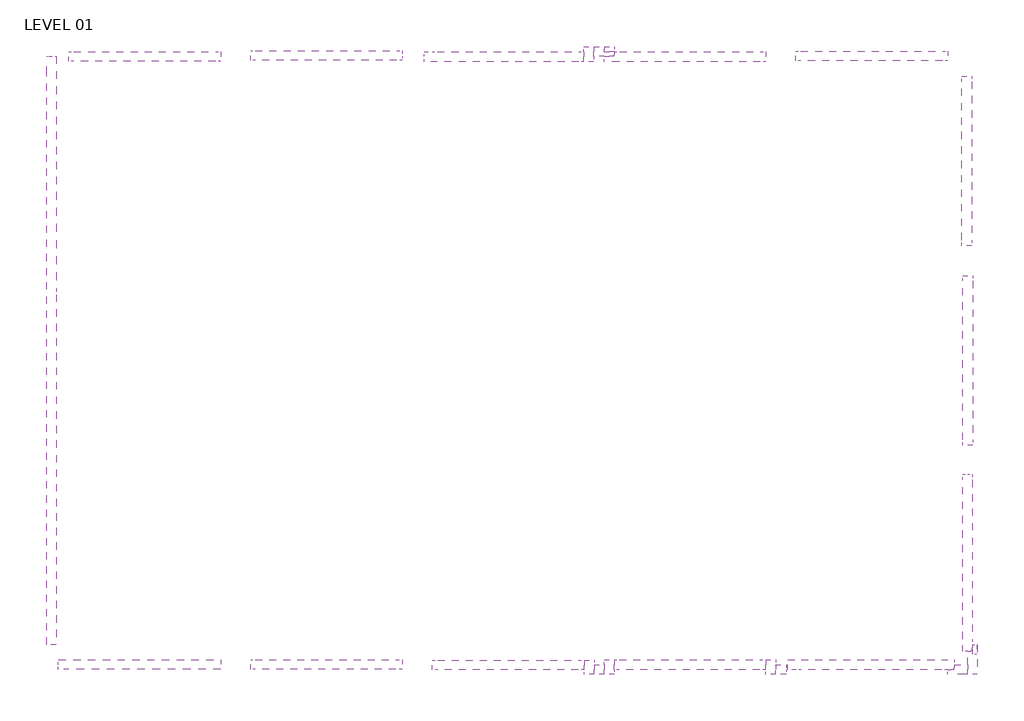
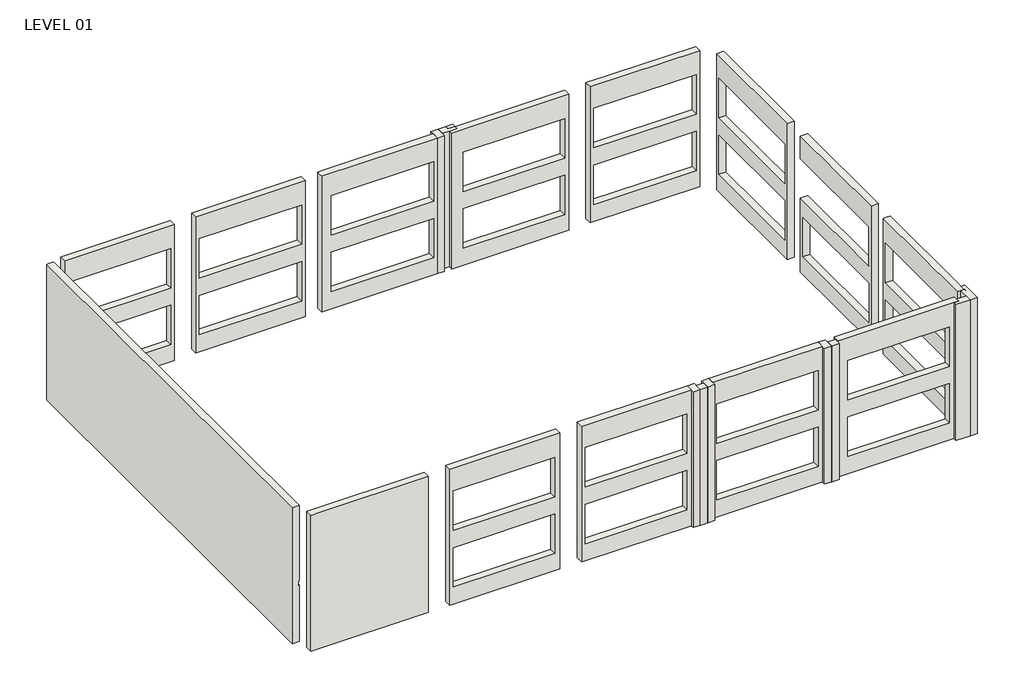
# One storey: 25 walls.
"""IFC4 building model written with IfcOpenShell, lengths in millimetres."""

from ifc_helpers import new_model, si_unit, frame, origin, place, context, project, spatial, polyline, outline, extrude, faceted_brep, element, save

model = new_model("IFC4")

# Units and contexts
model_context = context("Model", 3, world=origin())
ifc_project = project(units=[si_unit("LENGTHUNIT", "METRE", prefix="MILLI")], contexts=[model_context])

# Site, building, storey
site = spatial("IfcSite", under=ifc_project)
building = spatial("IfcBuilding", under=site)
storey = spatial("IfcBuildingStorey", under=building, Name="LEVEL 01", Elevation=0.0)

# Walls
placement = place(None, origin())
element("IfcWall", 1, ObjectType="Generic Exterior - Brick Three Wythe", at=placement, inside=storey, context=model_context, shape_type="Brep", body=[
    faceted_brep([(-37791.6332298, -450.85, 17221.2), (-37791.6332298, -24274.408955, 17221.2), (-37791.6332298, -24274.408955, 25273.0), (-37791.6332298, -1260.4335375, 25273.0), (-37791.6332298, -450.85, 25273.0), (-37791.6332298, -450.85, 17449.8), (-37391.5832298, -24274.408955, 17221.2), (-37391.5832298, -450.85, 17221.2), (-37391.5832298, -450.85, 17449.8), (-37391.5832298, -450.85, 20574.0), (-37391.5832298, -5926.2249162, 20574.0), (-37391.5832298, -9846.4419757, 20574.0), (-37391.5832298, -10100.4419757, 20574.0), (-37391.5832298, -24274.408955, 20574.0), (-37391.5832298, -24274.408955, 17449.8), (-37391.5832298, -450.85, 25273.0), (-37391.5832298, -24274.408955, 25273.0), (-37391.5832298, -24274.408955, 20802.6), (-37391.5832298, -10100.4419757, 20802.6), (-37391.5832298, -9846.4419757, 20802.6), (-37391.5832298, -5926.2249162, 20802.6), (-37391.5832298, -450.85, 20802.6), (-37391.5832298, -450.85, 24155.4), (-37695.5174995, -450.85, 25273.0), (-37440.7849596, -24274.408955, 20574.0), (-37440.7849596, -24274.408955, 20802.6), (-37440.7849596, -450.85, 20574.0), (-37440.7849596, -450.85, 20802.6)], [[[0, 1, 2, 3, 4, 5]], [[6, 7, 8, 9, 10, 11, 12, 13, 14]], [[15, 16, 17, 18, 19, 20, 21, 22]], [[1, 0, 7, 6]], [[4, 3, 2, 16, 15, 23]], [[2, 1, 6, 14, 13, 24, 25, 17, 16]], [[26, 24, 13, 12, 11, 10, 9]], [[25, 27, 21, 20, 19, 18, 17]], [[24, 26, 27, 25]], [[0, 5, 4, 23, 15, 22, 21, 27, 26, 9, 8, 7]]]),
])
element("IfcWall", 2, ObjectType="Generic Exterior - Brick Three Wythe", at=placement, inside=storey, context=model_context, shape_type="Brep", body=[
    faceted_brep([(-30727.2582298, -24880.833955, 17221.2), (-37309.0332298, -24880.833955, 17221.2), (-37309.0332298, -24880.833955, 17449.8), (-37309.0332298, -24880.833955, 24155.4), (-37309.0332298, -24880.833955, 25273.0), (-30727.2582298, -24880.833955, 25273.0), (-30727.2582298, -24880.833955, 17449.8), (-30727.2582298, -25280.883955, 17221.2), (-30727.2582298, -25280.883955, 25273.0), (-36889.9332298, -25280.883955, 25273.0), (-37289.9832298, -25280.883955, 25273.0), (-37309.0332298, -25280.883955, 25273.0), (-37309.0332298, -25280.883955, 17449.8), (-37309.0332298, -25280.883955, 17221.2), (-37309.0332298, -25084.033955, 25273.0)], [[[0, 1, 2, 3, 4, 5, 6]], [[7, 8, 9, 10, 11, 12, 13]], [[1, 0, 7, 13]], [[4, 3, 2, 1, 13, 12, 11, 14]], [[5, 4, 14, 11, 10, 9, 8]], [[0, 6, 5, 8, 7]]]),
])
element("IfcWall", 3, ObjectType="Generic Exterior - Brick Three Wythe", at=placement, inside=storey, context=model_context, shape_type="Brep", body=[
    faceted_brep([(-480.6099596, -25483.6398215, 17221.2), (-480.6099596, -25483.6398215, 25273.0), (-480.6099596, -25083.5898215, 25273.0), (-480.6099596, -24550.3435128, 25273.0), (-480.6099596, -24550.3435128, 24155.4), (-480.6099596, -24550.3435128, 17449.8), (-480.6099596, -24550.3435128, 17221.2), (-480.6099596, -25083.5898215, 17221.2), (-80.5599596, -25483.6398215, 17221.2), (-80.5599596, -24274.4089512, 17221.2), (-80.5599596, -24274.4089512, 25273.0), (-80.5599596, -25483.6398215, 25273.0), (-283.7599596, -24550.3435128, 17221.2), (-283.7599596, -24274.4089512, 17221.2), (-283.7599596, -24274.4089512, 25273.0), (-283.7599596, -24550.3435128, 25273.0)], [[[0, 1, 2, 3, 4, 5, 6, 7]], [[8, 9, 10, 11]], [[9, 8, 0, 7, 6, 12, 13]], [[11, 10, 14, 15, 3, 2, 1]], [[10, 9, 13, 14]], [[1, 0, 8, 11]], [[12, 15, 14, 13]], [[15, 12, 6, 5, 4, 3]]]),
])
element("IfcWall", 4, ObjectType="Generic Exterior - Brick Three Wythe", at=placement, inside=storey, context=model_context, shape_type="Brep", body=[
    faceted_brep([(-480.6099596, -25083.5898215, 25273.0), (-480.6099596, -25083.5898215, 24155.4), (-480.6099596, -25083.5898215, 17449.8), (-480.6099596, -25083.5898215, 17221.2), (-1026.7099596, -25083.5898215, 17221.2), (-1026.7099596, -25083.5898215, 17449.8), (-1026.7099596, -25083.5898215, 24155.4), (-1026.7099596, -25083.5898215, 25273.0), (-1283.8849596, -25483.6398215, 17221.2), (-480.6099596, -25483.6398215, 17221.2), (-480.6099596, -25483.6398215, 25273.0), (-1283.8849596, -25483.6398215, 25273.0), (-1283.8849596, -25286.7898215, 17221.2), (-1026.7099596, -25286.7898215, 17221.2), (-1283.8849596, -25286.7898215, 25273.0), (-1026.7099596, -25286.7898215, 25273.0)], [[[0, 1, 2, 3, 4, 5, 6, 7]], [[8, 9, 10, 11]], [[9, 8, 12, 13, 4, 3]], [[8, 11, 14, 12]], [[11, 10, 0, 7, 15, 14]], [[3, 2, 1, 0, 10, 9]], [[15, 13, 12, 14]], [[13, 15, 7, 6, 5, 4]]]),
])
element("IfcWall", 5, ObjectType="Generic Exterior - Brick Three Wythe", at=placement, inside=storey, context=model_context, shape_type="Brep", body=[
    faceted_brep([(-1026.7099596, -24886.7398215, 17221.2), (-7757.7099596, -24886.7398215, 17221.2), (-7757.7099596, -24886.7398215, 17449.8), (-7757.7099596, -24886.7398215, 24155.4), (-7757.7099596, -24886.7398215, 25273.0), (-1026.7099596, -24886.7398215, 25273.0), (-1026.7099596, -24886.7398215, 24155.4), (-1026.7099596, -24886.7398215, 17449.8), (-7224.9471136, -24886.7398215, 23926.8), (-7224.9471136, -24886.7398215, 21590.0), (-1535.3471136, -24886.7398215, 21590.0), (-1535.3471136, -24886.7398215, 23926.8), (-7224.9471136, -24886.7398215, 20574.0), (-7224.9471136, -24886.7398215, 18237.2), (-1535.3471136, -24886.7398215, 18237.2), (-1535.3471136, -24886.7398215, 20574.0), (-7757.7099596, -25286.7898215, 17221.2), (-1283.8849596, -25286.7898215, 17221.2), (-1026.7099596, -25286.7898215, 17221.2), (-1026.7099596, -25286.7898215, 25273.0), (-1283.8849596, -25286.7898215, 25273.0), (-7430.6849596, -25286.7898215, 25273.0), (-7757.7099596, -25286.7898215, 25273.0), (-7224.9471136, -25286.7898215, 21590.0), (-7224.9471136, -25286.7898215, 23926.8), (-1535.3471136, -25286.7898215, 23926.8), (-1535.3471136, -25286.7898215, 21590.0), (-7224.9471136, -25286.7898215, 18237.2), (-7224.9471136, -25286.7898215, 20574.0), (-1535.3471136, -25286.7898215, 20574.0), (-1535.3471136, -25286.7898215, 18237.2), (-1026.7099596, -25083.5898215, 17221.2), (-1026.7099596, -25083.5898215, 25273.0)], [[[0, 1, 2, 3, 4, 5, 6, 7], [8, 9, 10, 11], [12, 13, 14, 15]], [[16, 17, 18, 19, 20, 21, 22], [23, 24, 25, 26], [27, 28, 29, 30]], [[1, 0, 31, 18, 17, 16]], [[4, 3, 2, 1, 16, 22]], [[5, 4, 22, 21, 20, 19, 32]], [[0, 7, 6, 5, 32, 19, 18, 31]], [[23, 9, 8, 24]], [[24, 8, 11, 25]], [[25, 11, 10, 26]], [[9, 23, 26, 10]], [[27, 13, 12, 28]], [[28, 12, 15, 29]], [[29, 15, 14, 30]], [[13, 27, 30, 14]]]),
])
element("IfcWall", 6, ObjectType="Generic Exterior - Brick Three Wythe", at=placement, inside=storey, context=model_context, shape_type="Brep", body=[
    faceted_brep([(-7830.7349596, -25084.033955, 17221.2), (-8252.0596136, -25084.033955, 17221.2), (-8252.0596136, -25084.033955, 17449.8), (-7830.7349596, -25084.033955, 17449.8), (-8252.0596136, -25084.033955, 25273.0), (-7830.7349596, -25084.033955, 25273.0), (-7830.7349596, -25084.033955, 24155.4), (-8252.0596136, -25084.033955, 24155.4), (-8252.0596136, -25484.083955, 17221.2), (-7830.7349596, -25484.083955, 17221.2), (-7830.7349596, -25484.083955, 17449.8), (-7830.7349596, -25484.083955, 25273.0), (-8252.0596136, -25484.083955, 25273.0), (-7830.7349596, -25286.7898215, 25273.0), (-7830.7349596, -25135.9101345, 17449.8), (-7830.7349596, -25135.9101345, 24155.4), (-8252.0596136, -25135.9101345, 24155.4), (-8252.0596136, -25135.9101345, 17449.8)], [[[0, 1, 2, 3]], [[4, 5, 6, 7]], [[8, 9, 10, 11, 12]], [[1, 0, 9, 8]], [[5, 4, 12, 11, 13]], [[5, 13, 11, 10, 9, 0, 3, 14, 15, 6]], [[15, 16, 7, 6]], [[16, 15, 14, 17]], [[1, 8, 12, 4, 7, 16, 17, 2]], [[17, 14, 3, 2]]]),
])
element("IfcWall", 7, ObjectType="Generic Exterior - Brick Three Wythe", at=placement, inside=storey, context=model_context, shape_type="Brep", body=[
    faceted_brep([(-8252.0596136, -25484.083955, 17221.2), (-8252.0596136, -25084.033955, 17221.2), (-8252.0596136, -24886.7398215, 17221.2), (-8252.0596136, -24886.7398215, 17449.8), (-8252.0596136, -24886.7398215, 24155.4), (-8252.0596136, -24886.7398215, 25273.0), (-8252.0596136, -25084.033955, 25273.0), (-8252.0596136, -25484.083955, 25273.0), (-8652.1096136, -25484.083955, 17221.2), (-8652.1096136, -25484.083955, 25273.0), (-8652.1096136, -25286.7898215, 25273.0), (-8652.1096136, -24886.7398215, 25273.0), (-8652.1096136, -24886.7398215, 17221.2), (-8652.1096136, -25286.7898215, 17221.2)], [[[0, 1, 2, 3, 4, 5, 6, 7]], [[8, 9, 10, 11, 12, 13]], [[2, 1, 0, 8, 13, 12]], [[7, 6, 5, 11, 10, 9]], [[0, 7, 9, 8]], [[5, 4, 3, 2, 12, 11]]]),
])
element("IfcWall", 8, ObjectType="Generic Exterior - Brick Three Wythe", at=placement, inside=storey, context=model_context, shape_type="SweptSolid", body=[
    extrude(outline(polyline([(17221.2, -14798.9096136), (17221.2, -8652.1096136), (25273.0, -8652.1096136), (25273.0, -14798.9096136), (17221.2, -14798.9096136)]), holes=[polyline([(21590.0, -14586.8217677), (23926.8, -14586.8217677), (23926.8, -8897.2217677), (21590.0, -8897.2217677), (21590.0, -14586.8217677)]), polyline([(18237.2, -14586.8217677), (20574.0, -14586.8217677), (20574.0, -8897.2217677), (18237.2, -8897.2217677), (18237.2, -14586.8217677)])]), frame((0.0, -25286.7898215, 0.0), z_axis=(0.0, 1.0, 0.0), x_axis=(0.0, 0.0, 1.0)), (0.0, 0.0, 1.0), 400.05),
])
element("IfcWall", 9, ObjectType="Generic Exterior - Brick Three Wythe", at=placement, inside=storey, context=model_context, shape_type="Brep", body=[
    faceted_brep([(-15198.9596136, -24886.7398215, 17221.2), (-15198.9596136, -25084.033955, 17221.2), (-15198.9596136, -25484.083955, 17221.2), (-15198.9596136, -25484.083955, 25273.0), (-15198.9596136, -25084.033955, 25273.0), (-15198.9596136, -24886.7398215, 25273.0), (-15198.9596136, -24886.7398215, 24155.4), (-15198.9596136, -24886.7398215, 17449.8), (-14798.9096136, -24886.7398215, 17221.2), (-14798.9096136, -24886.7398215, 25273.0), (-14798.9096136, -25286.7898215, 25273.0), (-14798.9096136, -25484.083955, 25273.0), (-14798.9096136, -25484.083955, 17221.2), (-14798.9096136, -25286.7898215, 17221.2)], [[[0, 1, 2, 3, 4, 5, 6, 7]], [[8, 9, 10, 11, 12, 13]], [[2, 1, 0, 8, 13, 12]], [[5, 4, 3, 11, 10, 9]], [[0, 7, 6, 5, 9, 8]], [[3, 2, 12, 11]]]),
])
element("IfcWall", 10, ObjectType="Generic Exterior - Brick Three Wythe", at=placement, inside=storey, context=model_context, shape_type="Brep", body=[
    faceted_brep([(-15198.9596136, -25084.033955, 17221.2), (-15613.9342677, -25084.033955, 17221.2), (-15613.9342677, -25084.033955, 17449.8), (-15613.9342677, -25084.033955, 24155.4), (-15613.9342677, -25084.033955, 25273.0), (-15198.9596136, -25084.033955, 25273.0), (-15198.9596136, -25084.033955, 24155.4), (-15198.9596136, -25084.033955, 17449.8), (-15198.9596136, -25484.083955, 17221.2), (-15198.9596136, -25484.083955, 25273.0), (-15613.9342677, -25484.083955, 25273.0), (-15613.9342677, -25484.083955, 17221.2)], [[[0, 1, 2, 3, 4, 5, 6, 7]], [[8, 9, 10, 11]], [[1, 0, 8, 11]], [[5, 4, 10, 9]], [[0, 7, 6, 5, 9, 8]], [[4, 3, 2, 1, 11, 10]]]),
])
element("IfcWall", 11, ObjectType="Generic Exterior - Brick Three Wythe", at=placement, inside=storey, context=model_context, shape_type="Brep", body=[
    faceted_brep([(-15613.9342677, -25484.083955, 17221.2), (-15613.9342677, -25084.033955, 17221.2), (-15613.9342677, -24903.058955, 17221.2), (-15613.9342677, -24903.058955, 17449.8), (-15613.9342677, -24903.058955, 24155.4), (-15613.9342677, -24903.058955, 25273.0), (-15613.9342677, -25084.033955, 25273.0), (-15613.9342677, -25484.083955, 25273.0), (-16013.9842677, -25484.083955, 17221.2), (-16013.9842677, -25484.083955, 25273.0), (-16013.9842677, -25303.108955, 25273.0), (-16013.9842677, -24903.058955, 25273.0), (-16013.9842677, -24903.058955, 17221.2), (-16013.9842677, -25303.108955, 17221.2)], [[[0, 1, 2, 3, 4, 5, 6, 7]], [[8, 9, 10, 11, 12, 13]], [[2, 1, 0, 8, 13, 12]], [[7, 6, 5, 11, 10, 9]], [[0, 7, 9, 8]], [[5, 4, 3, 2, 12, 11]]]),
])
element("IfcWall", 12, ObjectType="Generic Exterior - Brick Three Wythe", at=placement, inside=storey, context=model_context, shape_type="Brep", body=[
    faceted_brep([(-16013.9842677, -24903.058955, 17221.2), (-22160.7842677, -24903.058955, 17221.2), (-22160.7842677, -24903.058955, 17449.8), (-22160.7842677, -24903.058955, 25273.0), (-16013.9842677, -24903.058955, 25273.0), (-21946.1585758, -24903.058955, 23926.8), (-21946.1585758, -24903.058955, 21590.0), (-16256.5585758, -24903.058955, 21590.0), (-16256.5585758, -24903.058955, 23926.8), (-21946.1585758, -24903.058955, 20574.0), (-21946.1585758, -24903.058955, 18237.2), (-16256.5585758, -24903.058955, 18237.2), (-16256.5585758, -24903.058955, 20574.0), (-22160.7842677, -25303.108955, 17221.2), (-16013.9842677, -25303.108955, 17221.2), (-16013.9842677, -25303.108955, 25273.0), (-22160.7842677, -25303.108955, 25273.0), (-21946.1585758, -25303.108955, 21590.0), (-21946.1585758, -25303.108955, 23926.8), (-16256.5585758, -25303.108955, 23926.8), (-16256.5585758, -25303.108955, 21590.0), (-21946.1585758, -25303.108955, 18237.2), (-21946.1585758, -25303.108955, 20574.0), (-16256.5585758, -25303.108955, 20574.0), (-16256.5585758, -25303.108955, 18237.2)], [[[0, 1, 2, 3, 4], [5, 6, 7, 8], [9, 10, 11, 12]], [[13, 14, 15, 16], [17, 18, 19, 20], [21, 22, 23, 24]], [[1, 0, 14, 13]], [[4, 3, 16, 15]], [[3, 2, 1, 13, 16]], [[17, 6, 5, 18]], [[18, 5, 8, 19]], [[19, 8, 7, 20]], [[6, 17, 20, 7]], [[21, 10, 9, 22]], [[22, 9, 12, 23]], [[23, 12, 11, 24]], [[10, 21, 24, 11]], [[0, 4, 15, 14]]]),
])
element("IfcWall", 13, ObjectType="Generic Exterior - Brick Three Wythe", at=placement, inside=storey, context=model_context, shape_type="Brep", body=[
    faceted_brep([(-23375.8589217, -24881.6862062, 17221.2), (-29522.6589217, -24881.6862062, 17221.2), (-29522.6589217, -24881.6862062, 17449.8), (-29522.6589217, -24881.6862062, 25273.0), (-23375.8589217, -24881.6862062, 25273.0), (-23375.8589217, -24881.6862062, 17449.8), (-29338.7121217, -24881.6862062, 20574.0), (-29338.7121217, -24881.6862062, 18237.2), (-23649.1121217, -24881.6862062, 18237.2), (-23649.1121217, -24881.6862062, 20574.0), (-29338.7121217, -24881.6862062, 23926.8), (-29338.7121217, -24881.6862062, 21590.0), (-23649.1121217, -24881.6862062, 21590.0), (-23649.1121217, -24881.6862062, 23926.8), (-29522.6589217, -25281.7362062, 17221.2), (-23375.8589217, -25281.7362062, 17221.2), (-23375.8589217, -25281.7362062, 25273.0), (-29522.6589217, -25281.7362062, 25273.0), (-29338.7121217, -25281.7362062, 18237.2), (-29338.7121217, -25281.7362062, 20574.0), (-23649.1121217, -25281.7362062, 20574.0), (-23649.1121217, -25281.7362062, 18237.2), (-29338.7121217, -25281.7362062, 21590.0), (-29338.7121217, -25281.7362062, 23926.8), (-23649.1121217, -25281.7362062, 23926.8), (-23649.1121217, -25281.7362062, 21590.0)], [[[0, 1, 2, 3, 4, 5], [6, 7, 8, 9], [10, 11, 12, 13]], [[14, 15, 16, 17], [18, 19, 20, 21], [22, 23, 24, 25]], [[1, 0, 15, 14]], [[4, 3, 17, 16]], [[0, 5, 4, 16, 15]], [[3, 2, 1, 14, 17]], [[18, 7, 6, 19]], [[19, 6, 9, 20]], [[20, 9, 8, 21]], [[7, 18, 21, 8]], [[22, 11, 10, 23]], [[23, 10, 13, 24]], [[24, 13, 12, 25]], [[11, 22, 25, 12]]]),
])
element("IfcWall", 14, ObjectType="Generic Exterior - Brick Three Wythe", at=placement, inside=storey, context=model_context, shape_type="Brep", body=[
    faceted_brep([(-709.2099596, -1260.475, 17221.2), (-709.2099596, -8118.475, 17221.2), (-709.2099596, -8118.475, 17449.8), (-709.2099596, -8118.475, 25273.0), (-709.2099596, -1260.475, 25273.0), (-709.2099596, -1260.475, 17449.8), (-709.2099596, -7891.9738171, 23926.8), (-709.2099596, -7891.9738171, 21590.0), (-709.2099596, -1465.7738171, 21590.0), (-709.2099596, -1465.7738171, 23926.8), (-709.2099596, -7891.9738171, 20574.0), (-709.2099596, -7891.9738171, 18237.2), (-709.2099596, -1463.7470775, 18237.2), (-709.2099596, -1463.7470775, 20574.0), (-309.1599596, -8118.475, 17221.2), (-309.1599596, -1260.475, 17221.2), (-309.1599596, -1260.475, 25273.0), (-309.1599596, -8118.475, 25273.0), (-309.1599596, -7891.9738171, 21590.0), (-309.1599596, -7891.9738171, 23926.8), (-309.1599596, -1465.7738171, 23926.8), (-309.1599596, -1465.7738171, 21590.0), (-309.1599596, -7891.9738171, 18237.2), (-309.1599596, -7891.9738171, 20574.0), (-309.1599596, -1463.7470775, 20574.0), (-309.1599596, -1463.7470775, 18237.2)], [[[0, 1, 2, 3, 4, 5], [6, 7, 8, 9], [10, 11, 12, 13]], [[14, 15, 16, 17], [18, 19, 20, 21], [22, 23, 24, 25]], [[1, 0, 15, 14]], [[4, 3, 17, 16]], [[0, 5, 4, 16, 15]], [[3, 2, 1, 14, 17]], [[18, 7, 6, 19]], [[19, 6, 9, 20]], [[20, 9, 8, 21]], [[7, 18, 21, 8]], [[22, 11, 10, 23]], [[23, 10, 13, 24]], [[24, 13, 12, 25]], [[11, 22, 25, 12]]]),
])
element("IfcWall", 15, ObjectType="Generic Exterior - Brick Three Wythe", at=placement, inside=storey, context=model_context, shape_type="Brep", body=[
    faceted_brep([(-677.4599596, -9335.0113171, 17221.2), (-677.4599596, -16193.0113171, 17221.2), (-677.4599596, -16193.0113171, 17449.8), (-677.4599596, -16193.0113171, 25273.0), (-677.4599596, -9335.0113171, 25273.0), (-677.4599596, -9335.0113171, 23926.8), (-677.4599596, -15980.9569558, 23926.8), (-677.4599596, -15980.9569558, 21590.0), (-677.4599596, -9335.0113171, 21590.0), (-677.4599596, -9335.0113171, 17449.8), (-677.4599596, -15980.9569558, 20574.0), (-677.4599596, -15980.9569558, 18237.2), (-677.4599596, -9539.7095926, 18237.2), (-677.4599596, -9539.7095926, 20574.0), (-277.4099596, -16193.0113171, 17221.2), (-277.4099596, -9335.0113171, 17221.2), (-277.4099596, -9335.0113171, 21590.0), (-277.4099596, -15980.9569558, 21590.0), (-277.4099596, -15980.9569558, 23926.8), (-277.4099596, -9335.0113171, 23926.8), (-277.4099596, -9335.0113171, 25273.0), (-277.4099596, -16193.0113171, 25273.0), (-277.4099596, -15980.9569558, 18237.2), (-277.4099596, -15980.9569558, 20574.0), (-277.4099596, -9539.7095926, 20574.0), (-277.4099596, -9539.7095926, 18237.2)], [[[0, 1, 2, 3, 4, 5, 6, 7, 8, 9], [10, 11, 12, 13]], [[14, 15, 16, 17, 18, 19, 20, 21], [22, 23, 24, 25]], [[1, 0, 15, 14]], [[4, 3, 21, 20]], [[3, 2, 1, 14, 21]], [[17, 7, 6, 18]], [[18, 6, 5, 19]], [[7, 17, 16, 8]], [[22, 11, 10, 23]], [[23, 10, 13, 24]], [[24, 13, 12, 25]], [[11, 22, 25, 12]], [[15, 0, 9, 8, 16]], [[4, 20, 19, 5]]]),
])
element("IfcWall", 16, ObjectType="Generic Exterior - Brick Three Wythe", at=placement, inside=storey, context=model_context, shape_type="Brep", body=[
    faceted_brep([(-683.8099596, -17384.3685128, 17221.2), (-683.8099596, -24550.3435128, 17221.2), (-683.8099596, -24550.3435128, 17449.8), (-683.8099596, -24550.3435128, 24155.4), (-683.8099596, -24550.3435128, 25273.0), (-683.8099596, -17384.3685128, 25273.0), (-683.8099596, -24052.1572314, 23926.8), (-683.8099596, -24052.1572314, 21590.0), (-683.8099596, -17600.5572314, 21590.0), (-683.8099596, -17600.5572314, 23926.8), (-683.8099596, -24052.1572314, 20574.0), (-683.8099596, -24052.1572314, 18237.2), (-683.8099596, -17600.5572314, 18237.2), (-683.8099596, -17600.5572314, 20574.0), (-283.7599596, -24550.3435128, 17221.2), (-283.7599596, -24274.4089512, 17221.2), (-283.7599596, -17384.3685128, 17221.2), (-283.7599596, -17384.3685128, 25273.0), (-283.7599596, -24274.4089512, 25273.0), (-283.7599596, -24550.3435128, 25273.0), (-283.7599596, -24052.1572314, 21590.0), (-283.7599596, -24052.1572314, 23926.8), (-283.7599596, -17600.5572314, 23926.8), (-283.7599596, -17600.5572314, 21590.0), (-283.7599596, -24052.1572314, 18237.2), (-283.7599596, -24052.1572314, 20574.0), (-283.7599596, -17600.5572314, 20574.0), (-283.7599596, -17600.5572314, 18237.2), (-480.6099596, -24550.3435128, 17221.2), (-480.6099596, -24550.3435128, 25273.0), (-483.7849596, -17384.3685128, 25273.0)], [[[0, 1, 2, 3, 4, 5], [6, 7, 8, 9], [10, 11, 12, 13]], [[14, 15, 16, 17, 18, 19], [20, 21, 22, 23], [24, 25, 26, 27]], [[1, 0, 16, 15, 14, 28]], [[4, 3, 2, 1, 28, 14, 19, 29]], [[5, 4, 29, 19, 18, 17, 30]], [[20, 7, 6, 21]], [[21, 6, 9, 22]], [[22, 9, 8, 23]], [[7, 20, 23, 8]], [[24, 11, 10, 25]], [[25, 10, 13, 26]], [[26, 13, 12, 27]], [[11, 24, 27, 12]], [[0, 5, 30, 17, 16]]]),
])
element("IfcWall", 17, ObjectType="Generic Exterior - Brick Three Wythe", at=placement, inside=storey, context=model_context, shape_type="SweptSolid", body=[
    extrude(outline(polyline([(-110.0438952, -24674.4589512), (-280.5849596, -24674.4589512), (-280.5849596, -24274.4089512), (-110.0438952, -24274.4089512), (-110.0438952, -24674.4589512)])), frame((0.0, 0.0, 17221.2), z_axis=(0.0, 0.0, 1.0), x_axis=(1.0, 0.0, 0.0)), (0.0, 0.0, 1.0), 8051.8),
])
element("IfcWall", 18, ObjectType="Generic Exterior - Brick Three Wythe", at=placement, inside=storey, context=model_context, shape_type="Brep", body=[
    faceted_brep([(-36889.9332298, -654.05, 17221.2), (-30743.1332298, -654.05, 17221.2), (-30743.1332298, -654.05, 17449.8), (-30743.1332298, -654.05, 25273.0), (-36889.9332298, -654.05, 25273.0), (-36889.9332298, -654.05, 17449.8), (-36686.1710374, -654.05, 21590.0), (-36686.1710374, -654.05, 23926.8), (-30945.7710374, -654.05, 23926.8), (-30945.7710374, -654.05, 21590.0), (-36686.1710374, -654.05, 18237.2), (-36686.1710374, -654.05, 20574.0), (-30945.7710374, -654.05, 20574.0), (-30945.7710374, -654.05, 18237.2), (-30743.1332298, -254.0, 17221.2), (-36889.9332298, -254.0, 17221.2), (-36889.9332298, -254.0, 25273.0), (-30743.1332298, -254.0, 25273.0), (-36686.1710374, -254.0, 23926.8), (-36686.1710374, -254.0, 21590.0), (-30945.7710374, -254.0, 21590.0), (-30945.7710374, -254.0, 23926.8), (-36686.1710374, -254.0, 20574.0), (-36686.1710374, -254.0, 18237.2), (-30945.7710374, -254.0, 18237.2), (-30945.7710374, -254.0, 20574.0)], [[[0, 1, 2, 3, 4, 5], [6, 7, 8, 9], [10, 11, 12, 13]], [[14, 15, 16, 17], [18, 19, 20, 21], [22, 23, 24, 25]], [[1, 0, 15, 14]], [[4, 3, 17, 16]], [[0, 5, 4, 16, 15]], [[3, 2, 1, 14, 17]], [[6, 19, 18, 7]], [[7, 18, 21, 8]], [[8, 21, 20, 9]], [[19, 6, 9, 20]], [[10, 23, 22, 11]], [[11, 22, 25, 12]], [[12, 25, 24, 13]], [[23, 10, 13, 24]]]),
])
element("IfcWall", 19, ObjectType="Generic Exterior - Brick Three Wythe", at=placement, inside=storey, context=model_context, shape_type="Brep", body=[
    faceted_brep([(-29528.0585758, -612.775, 17221.2), (-23381.2585758, -612.775, 17221.2), (-23381.2585758, -612.775, 17449.8), (-23381.2585758, -612.775, 25273.0), (-29528.0585758, -612.775, 25273.0), (-29528.0585758, -612.775, 17449.8), (-29338.7121217, -612.775, 18237.2), (-29338.7121217, -612.775, 20574.0), (-23598.3121217, -612.775, 20574.0), (-23598.3121217, -612.775, 18237.2), (-29338.7121217, -612.775, 21590.0), (-29338.7121217, -612.775, 23926.8), (-23598.3121217, -612.775, 23926.8), (-23598.3121217, -612.775, 21590.0), (-23381.2585758, -212.725, 17221.2), (-29528.0585758, -212.725, 17221.2), (-29528.0585758, -212.725, 25273.0), (-23381.2585758, -212.725, 25273.0), (-29338.7121217, -212.725, 20574.0), (-29338.7121217, -212.725, 18237.2), (-23598.3121217, -212.725, 18237.2), (-23598.3121217, -212.725, 20574.0), (-29338.7121217, -212.725, 23926.8), (-29338.7121217, -212.725, 21590.0), (-23598.3121217, -212.725, 21590.0), (-23598.3121217, -212.725, 23926.8), (-23381.2585758, -450.85, 25273.0)], [[[0, 1, 2, 3, 4, 5], [6, 7, 8, 9], [10, 11, 12, 13]], [[14, 15, 16, 17], [18, 19, 20, 21], [22, 23, 24, 25]], [[1, 0, 15, 14]], [[4, 3, 26, 17, 16]], [[0, 5, 4, 16, 15]], [[3, 2, 1, 14, 17, 26]], [[6, 19, 18, 7]], [[7, 18, 21, 8]], [[8, 21, 20, 9]], [[19, 6, 9, 20]], [[10, 23, 22, 11]], [[11, 22, 25, 12]], [[12, 25, 24, 13]], [[23, 10, 13, 24]]]),
])
element("IfcWall", 20, ObjectType="Generic Exterior - Brick Three Wythe", at=placement, inside=storey, context=model_context, shape_type="Brep", body=[
    faceted_brep([(-22499.5589217, -663.575, 17221.2), (-16019.3839217, -663.575, 17221.2), (-16019.3839217, -663.575, 25273.0), (-22499.5589217, -663.575, 25273.0), (-22499.5589217, -663.575, 24155.4), (-22499.5589217, -663.575, 17449.8), (-21961.9412013, -663.575, 21590.0), (-21961.9412013, -663.575, 23926.8), (-16225.9971519, -663.575, 23926.8), (-16225.9971519, -663.575, 21590.0), (-21961.9412013, -663.575, 18237.2), (-21961.9412013, -663.575, 20574.0), (-16225.9971519, -663.575, 20574.0), (-16225.9971519, -663.575, 18237.2), (-16019.3839217, -263.525, 17221.2), (-22499.5589217, -263.525, 17221.2), (-22499.5589217, -263.525, 17449.8), (-22499.5589217, -263.525, 25273.0), (-22166.1839217, -263.525, 25273.0), (-16019.3839217, -263.525, 25273.0), (-21961.9412013, -263.525, 23926.8), (-21961.9412013, -263.525, 21590.0), (-16225.9971519, -263.525, 21590.0), (-16225.9971519, -263.525, 23926.8), (-21961.9412013, -263.525, 20574.0), (-21961.9412013, -263.525, 18237.2), (-16225.9971519, -263.525, 18237.2), (-16225.9971519, -263.525, 20574.0), (-22499.5589217, -450.85, 25273.0)], [[[0, 1, 2, 3, 4, 5], [6, 7, 8, 9], [10, 11, 12, 13]], [[14, 15, 16, 17, 18, 19], [20, 21, 22, 23], [24, 25, 26, 27]], [[1, 0, 15, 14]], [[3, 2, 19, 18, 17, 28]], [[0, 5, 4, 3, 28, 17, 16, 15]], [[6, 21, 20, 7]], [[7, 20, 23, 8]], [[8, 23, 22, 9]], [[21, 6, 9, 22]], [[10, 25, 24, 11]], [[11, 24, 27, 12]], [[12, 27, 26, 13]], [[25, 10, 13, 26]], [[2, 1, 14, 19]]]),
])
element("IfcWall", 21, ObjectType="Generic Exterior - Brick Three Wythe", at=placement, inside=storey, context=model_context, shape_type="Brep", body=[
    faceted_brep([(-15619.3339217, -663.575, 17221.2), (-15619.3339217, -450.85, 17221.2), (-15619.3339217, -50.8, 17221.2), (-15619.3339217, -50.8, 25273.0), (-15619.3339217, -450.85, 25273.0), (-15619.3339217, -663.575, 25273.0), (-15619.3339217, -663.575, 24155.4), (-15619.3339217, -663.575, 17449.8), (-16019.3839217, -663.575, 17221.2), (-16019.3839217, -663.575, 25273.0), (-16019.3839217, -263.525, 25273.0), (-16019.3839217, -50.8, 25273.0), (-16019.3839217, -50.8, 17221.2), (-16019.3839217, -263.525, 17221.2)], [[[0, 1, 2, 3, 4, 5, 6, 7]], [[8, 9, 10, 11, 12, 13]], [[2, 1, 0, 8, 13, 12]], [[5, 4, 3, 11, 10, 9]], [[3, 2, 12, 11]], [[0, 7, 6, 5, 9, 8]]]),
])
element("IfcWall", 22, ObjectType="Generic Exterior - Brick Three Wythe", at=placement, inside=storey, context=model_context, shape_type="Brep", body=[
    faceted_brep([(-15619.3339217, -450.85, 17221.2), (-15203.0849596, -450.85, 17221.2), (-14793.5673649, -450.85, 17221.2), (-14793.5673649, -450.85, 25273.0), (-15203.0849596, -450.85, 25273.0), (-15619.3339217, -450.85, 25273.0), (-15619.3339217, -450.85, 24155.4), (-15619.3339217, -450.85, 17449.8), (-15619.3339217, -50.8, 17221.2), (-15619.3339217, -50.8, 25273.0), (-15193.6173649, -50.8, 25273.0), (-15193.6173649, -50.8, 17221.2), (-15193.6173649, -250.825, 17221.2), (-14793.5673649, -250.825, 17221.2), (-14793.5673649, -263.525, 17221.2), (-14793.5673649, -250.825, 25273.0), (-14793.5673649, -263.525, 25273.0), (-15193.6173649, -250.825, 25273.0)], [[[0, 1, 2, 3, 4, 5, 6, 7]], [[8, 9, 10, 11]], [[2, 1, 0, 8, 11, 12, 13, 14]], [[3, 2, 14, 13, 15, 16]], [[5, 4, 3, 16, 15, 17, 10, 9]], [[0, 7, 6, 5, 9, 8]], [[17, 12, 11, 10]], [[12, 17, 15, 13]]]),
])
element("IfcWall", 23, ObjectType="Generic Exterior - Brick Three Wythe", at=placement, inside=storey, context=model_context, shape_type="SweptSolid", body=[
    extrude(outline(polyline([(-15193.6173649, -250.825), (-15193.6173649, -50.8), (-14793.5673649, -50.8), (-14793.5673649, -250.825), (-15193.6173649, -250.825)])), frame((0.0, 0.0, 17221.2), z_axis=(0.0, 0.0, 1.0), x_axis=(1.0, 0.0, 0.0)), (0.0, 0.0, 1.0), 8051.8),
])
element("IfcWall", 24, ObjectType="Generic Exterior - Brick Three Wythe", at=placement, inside=storey, context=model_context, shape_type="Brep", body=[
    faceted_brep([(-15203.0849596, -663.575, 17221.2), (-8646.7673649, -663.575, 17221.2), (-8646.7673649, -663.575, 17449.8), (-8646.7673649, -663.575, 25273.0), (-15203.0849596, -663.575, 25273.0), (-15203.0849596, -663.575, 24155.4), (-15203.0849596, -663.575, 17449.8), (-14574.9971519, -663.575, 21590.0), (-14574.9971519, -663.575, 23926.8), (-8885.3971519, -663.575, 23926.8), (-8885.3971519, -663.575, 21590.0), (-14574.9971519, -663.575, 18237.2), (-14574.9971519, -663.575, 20574.0), (-8885.3971519, -663.575, 20574.0), (-8885.3971519, -663.575, 18237.2), (-8646.7673649, -263.525, 25273.0), (-8646.7673649, -263.525, 17221.2), (-14793.5673649, -263.525, 17221.2), (-14793.5673649, -263.525, 25273.0), (-14574.9971519, -263.525, 23926.8), (-14574.9971519, -263.525, 21590.0), (-8885.3971519, -263.525, 21590.0), (-8885.3971519, -263.525, 23926.8), (-14574.9971519, -263.525, 20574.0), (-14574.9971519, -263.525, 18237.2), (-8885.3971519, -263.525, 18237.2), (-8885.3971519, -263.525, 20574.0), (-15203.0849596, -450.85, 17221.2), (-14793.5673649, -450.85, 17221.2), (-14793.5673649, -450.85, 25273.0), (-15203.0849596, -450.85, 25273.0), (-15203.0849596, -450.85, 17449.8), (-15203.0849596, -450.85, 24155.4)], [[[0, 1, 2, 3, 4, 5, 6], [7, 8, 9, 10], [11, 12, 13, 14]], [[15, 16, 17, 18], [19, 20, 21, 22], [23, 24, 25, 26]], [[1, 0, 27, 28, 17, 16]], [[4, 3, 15, 18, 29, 30]], [[3, 2, 1, 16, 15]], [[7, 20, 19, 8]], [[8, 19, 22, 9]], [[9, 22, 21, 10]], [[20, 7, 10, 21]], [[11, 24, 23, 12]], [[12, 23, 26, 13]], [[13, 26, 25, 14]], [[24, 11, 14, 25]], [[29, 28, 27, 31, 32, 30]], [[28, 29, 18, 17]], [[0, 6, 5, 4, 30, 32, 31, 27]]]),
])
element("IfcWall", 25, ObjectType="Generic Exterior - Brick Three Wythe", at=placement, inside=storey, context=model_context, shape_type="Brep", body=[
    faceted_brep([(-7442.4346136, -631.825, 17221.2), (-1290.2349596, -631.825, 17221.2), (-1290.2349596, -631.825, 17449.8), (-1290.2349596, -631.825, 25273.0), (-7442.4346136, -631.825, 25273.0), (-7442.4346136, -631.825, 17449.8), (-7234.3971519, -631.825, 18237.2), (-7234.3971519, -631.825, 20574.0), (-1493.9971519, -631.825, 20574.0), (-1493.9971519, -631.825, 18237.2), (-7234.3971519, -631.825, 21590.0), (-7234.3971519, -631.825, 23926.8), (-1493.9971519, -631.825, 23926.8), (-1493.9971519, -631.825, 21590.0), (-1290.2349596, -231.775, 17221.2), (-7442.4346136, -231.775, 17221.2), (-7442.4346136, -231.775, 25273.0), (-1290.2349596, -231.775, 25273.0), (-7234.3971519, -231.775, 20574.0), (-7234.3971519, -231.775, 18237.2), (-1493.9971519, -231.775, 18237.2), (-1493.9971519, -231.775, 20574.0), (-7234.3971519, -231.775, 23926.8), (-7234.3971519, -231.775, 21590.0), (-1493.9971519, -231.775, 21590.0), (-1493.9971519, -231.775, 23926.8)], [[[0, 1, 2, 3, 4, 5], [6, 7, 8, 9], [10, 11, 12, 13]], [[14, 15, 16, 17], [18, 19, 20, 21], [22, 23, 24, 25]], [[1, 0, 15, 14]], [[4, 3, 17, 16]], [[3, 2, 1, 14, 17]], [[6, 19, 18, 7]], [[7, 18, 21, 8]], [[8, 21, 20, 9]], [[19, 6, 9, 20]], [[10, 23, 22, 11]], [[11, 22, 25, 12]], [[12, 25, 24, 13]], [[23, 10, 13, 24]], [[0, 5, 4, 16, 15]]]),
])

save(model, "model.ifc")
